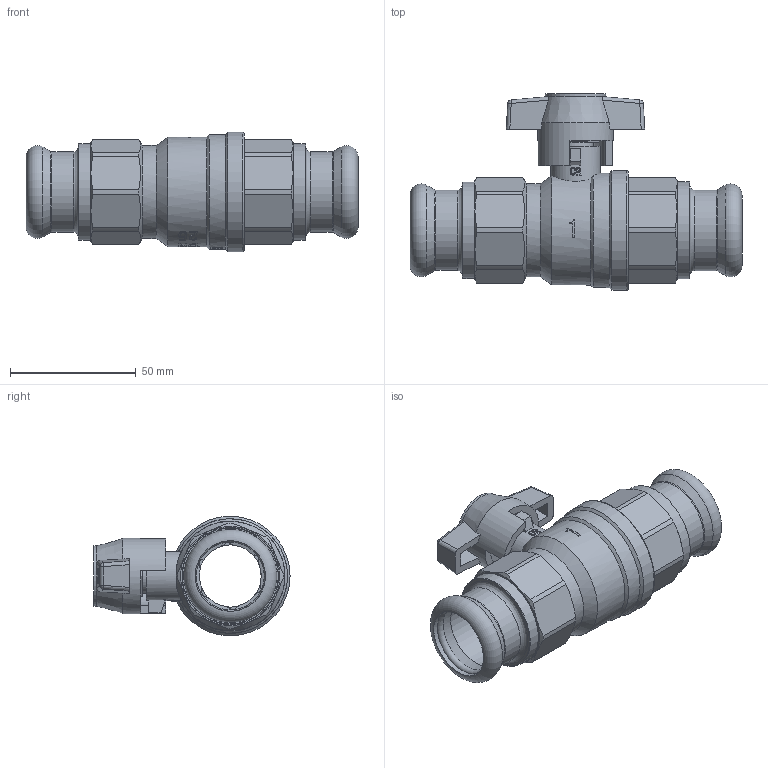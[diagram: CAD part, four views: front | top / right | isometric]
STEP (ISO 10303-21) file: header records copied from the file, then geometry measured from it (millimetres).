
FILE_DESCRIPTION((''),'2;1');
FILE_NAME('P:\Fastrack\53972_CRANE 3D\Press Fit\HATTERSLEY\100-TH\28MM\Fig_PF-100-28MM.stp','2011-11-30T11:38:42',('dcole'),(''),'Autodesk Inventor 2008','Autodesk Inventor 2008','');
FILE_SCHEMA(('AUTOMOTIVE_DESIGN { 1 0 10303 214 1 1 1 1 }'));
Length unit declared in the file: millimetre
Products named in the file (1): Fig_PF-100-28MM
Bounding box: 132 x 77.95 x 47.5 mm (x, y, z)
Volume: 93383 mm3; surface area: 54837.1 mm2
Topology: 1 solids, 8 shells, 597 faces, 1710 edges, 1185 vertices
Faces by surface type: plane 247, bspline 125, cylinder 112, cone 91, torus 15, sphere 7
Full cylindrical faces by diameter (mm): 2 x2, 10 x1, 10.1 x2, 10.3 x1, 11 x1, 11.5 x1, 14 x1, 14.3 x1, 14.5 x1, 19.5 x1, 21.7 x1, 24 x2, 24.8 x5, 28 x4, 30 x1, 30.1 x2, 30.291 x2, 32 x4, 33 x4, 34 x2, 36.5 x1, 37 x1, 38.5 x2, 39.5 x1, 41 x1, 41.2 x1, 45.5 x1, 47.5 x1
Entity records: 40286 total; most frequent: CARTESIAN_POINT 25786, ORIENTED_EDGE 3070, DIRECTION 2521, EDGE_CURVE 1535, VERTEX_POINT 1126, AXIS2_PLACEMENT_3D 938, EDGE_LOOP 799, VECTOR 645
